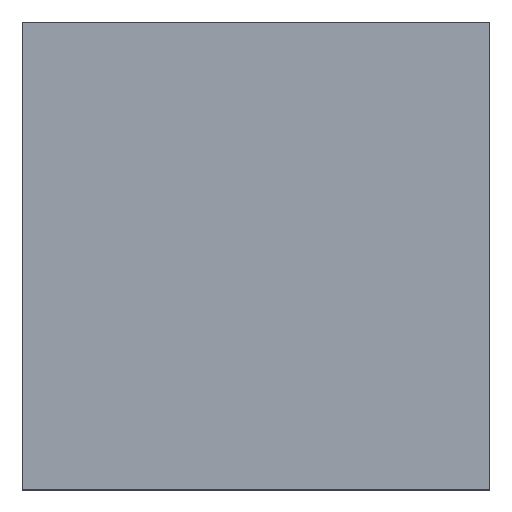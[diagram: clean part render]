
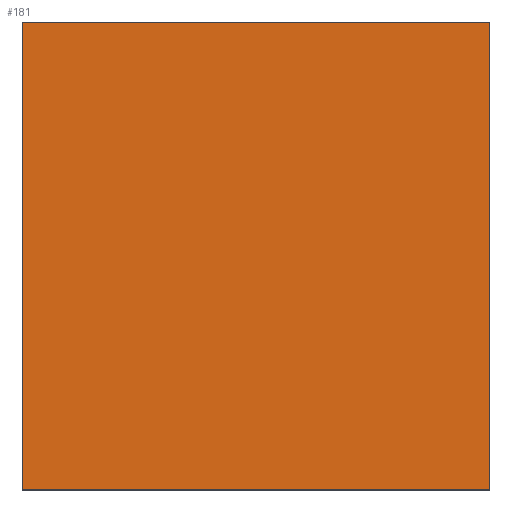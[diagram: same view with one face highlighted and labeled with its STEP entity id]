
A CAD part, top view. The second image highlights one B-rep face of the part: STEP entity #181.
In plain terms, the highlighted planar face has unit normal (0, 0, 1).
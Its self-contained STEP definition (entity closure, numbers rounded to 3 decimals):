
#52 = VERTEX_POINT('',#53);
#53 = CARTESIAN_POINT('',(-27.94,27.94,1.09));
#59 = EDGE_CURVE('',#52,#60,#62,.T.);
#60 = VERTEX_POINT('',#61);
#61 = CARTESIAN_POINT('',(-27.94,-27.94,1.09));
#62 = LINE('',#63,#64);
#63 = CARTESIAN_POINT('',(-27.94,27.94,1.09));
#64 = VECTOR('',#65,1.);
#65 = DIRECTION('',(0.,-1.,0.));
#90 = EDGE_CURVE('',#60,#91,#93,.T.);
#91 = VERTEX_POINT('',#92);
#92 = CARTESIAN_POINT('',(27.94,-27.94,1.09));
#93 = LINE('',#94,#95);
#94 = CARTESIAN_POINT('',(-27.94,-27.94,1.09));
#95 = VECTOR('',#96,1.);
#96 = DIRECTION('',(1.,0.,0.));
#121 = EDGE_CURVE('',#91,#122,#124,.T.);
#122 = VERTEX_POINT('',#123);
#123 = CARTESIAN_POINT('',(27.94,27.94,1.09));
#124 = LINE('',#125,#126);
#125 = CARTESIAN_POINT('',(27.94,-27.94,1.09));
#126 = VECTOR('',#127,1.);
#127 = DIRECTION('',(0.,1.,0.));
#152 = EDGE_CURVE('',#122,#52,#153,.T.);
#153 = LINE('',#154,#155);
#154 = CARTESIAN_POINT('',(27.94,27.94,1.09));
#155 = VECTOR('',#156,1.);
#156 = DIRECTION('',(-1.,0.,0.));
#181 = ADVANCED_FACE('',(#182),#188,.T.);
#182 = FACE_BOUND('',#183,.T.);
#183 = EDGE_LOOP('',(#184,#185,#186,#187));
#184 = ORIENTED_EDGE('',*,*,#59,.T.);
#185 = ORIENTED_EDGE('',*,*,#90,.T.);
#186 = ORIENTED_EDGE('',*,*,#121,.T.);
#187 = ORIENTED_EDGE('',*,*,#152,.T.);
#188 = PLANE('',#189);
#189 = AXIS2_PLACEMENT_3D('',#190,#191,#192);
#190 = CARTESIAN_POINT('',(0.,0.,1.09));
#191 = DIRECTION('',(0.,0.,1.));
#192 = DIRECTION('',(1.,0.,-0.));
